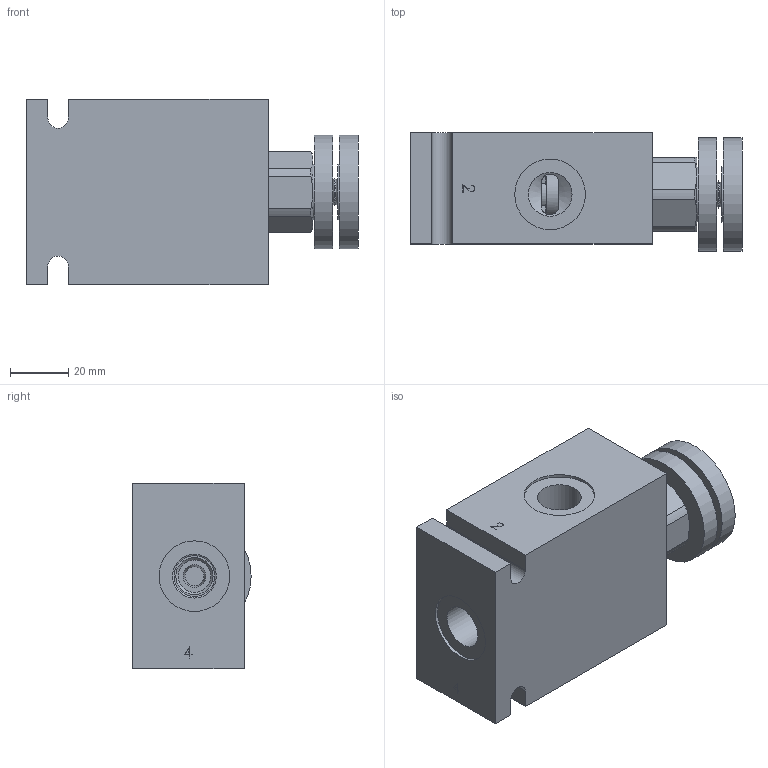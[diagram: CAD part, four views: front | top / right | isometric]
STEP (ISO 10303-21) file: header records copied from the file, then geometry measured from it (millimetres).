
FILE_DESCRIPTION( ( 'Unknown' ), '1' );
FILE_NAME( 'G:/Graphic Design/Graphic Design 2/Data Sheets/MANUAL_MECH OPERATED VALVES/4_STEP/4W2P Manual Valves/D-DGM4A0K-B4.stp', 'Unknown', ( 'Unknown' ), ( 'Unknown' ), 'PSStep 16.0.42', 'Unknown', ' ' );
FILE_SCHEMA( ( 'AUTOMOTIVE_DESIGN { 1 0 10303 214 1 1 1 1 }' ) );
Length unit declared in the file: millimetre
Products named in the file (16): DGM4A0K; DGM4A0K-3D Full1; DGM4A0K-3D Full2; DGM4A0K-3D Full3; DGM4A0K-3D Full4; DGM4A0K-3D Full5; DGM4A0K-3D Full6; DGM4A0K-3D Full7; DGM4A0K-3D Full8; DGM4A0K-3D Full9; DGM4A0K-3D Full10; DGM4A0K-3D Full11; DGM4A0K-3D Full12; DGM4A0K-3D Full13; Assem1; B-DDGB4
Assembly tree (15 placements, depth 3):
  Assem1
    B-DDGB4
    DGM4A0K
      DGM4A0K-3D Full1
      DGM4A0K-3D Full2
      DGM4A0K-3D Full3
      DGM4A0K-3D Full4
      DGM4A0K-3D Full5
      DGM4A0K-3D Full6
      DGM4A0K-3D Full7
      DGM4A0K-3D Full8
      DGM4A0K-3D Full9
      DGM4A0K-3D Full10
      DGM4A0K-3D Full11
      DGM4A0K-3D Full12
      DGM4A0K-3D Full13
Bounding box: 113.74 x 40.53 x 63.5 mm (x, y, z)
Surface area: 46273.9 mm2 (no closed solid volume)
Topology: 0 solids, 392 shells, 392 faces, 1697 edges, 1572 vertices
Faces by surface type: plane 180, cylinder 98, cone 83, torus 31
Full cylindrical faces by diameter (mm): 0.2 x4, 3.962 x1, 8.128 x1, 9.525 x2, 11.11 x1, 12.992 x1, 13.043 x2, 14 x2, 14.275 x1, 14.592 x1, 14.63 x2, 15 x8, 15.735 x2, 15.773 x2, 15.875 x2, 15.9 x1, 16.167 x1, 16.218 x2, 17.323 x3, 17.374 x2, 17.501 x1, 18.91 x2, 18.948 x2, 19.05 x2, 19.075 x1, 19.622 x1, 20.262 x2, 24.2 x4, 30.175 x1, 38.862 x2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
Entity records: 21006 total; most frequent: CARTESIAN_POINT 5813, DIRECTION 2422, VERTEX_POINT 1544, ORIENTED_EDGE 1540, EDGE_CURVE 1540, AXIS2_PLACEMENT_3D 1025, CIRCLE 616, FACE_BOUND 570
